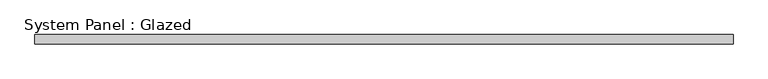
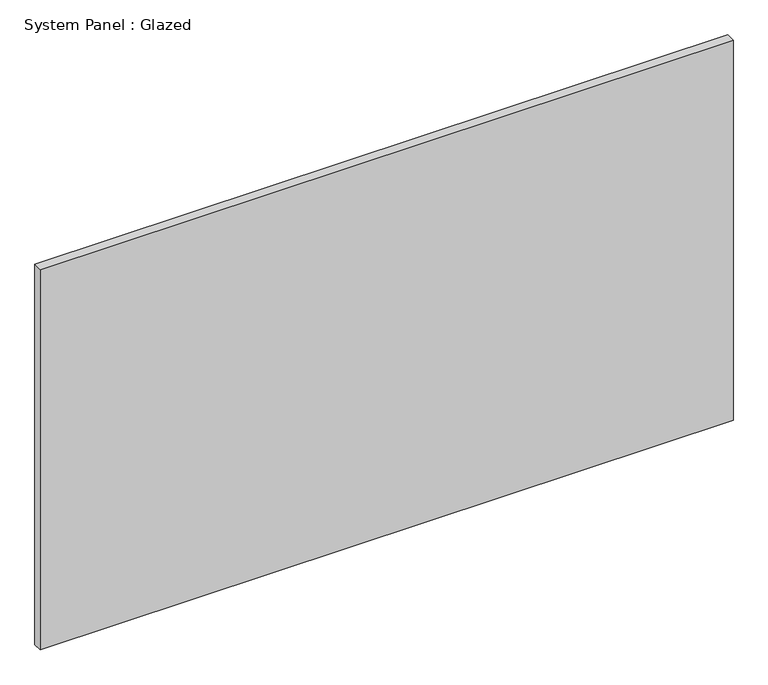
"""IFC4 building model written with IfcOpenShell, lengths in millimetres: plate geometry, System Panel : Glazed."""

from ifc_helpers import new_model, si_unit, origin, origin_with_axes, place, context, project, spatial, polyline, outline, extrude, source, transform, mapped, element, save


def system_panel_glazed_ac179f57(model_context):
    return source(origin(), model_context, "Body", "SweptSolid", [
        extrude(outline(polyline([(968.375, 19.05), (-968.375, 19.05), (-968.375, 44.45), (968.375, 44.45), (968.375, 19.05)])), origin_with_axes(), (0.0, 0.0, 1.0), 1123.95),
    ])


if __name__ == "__main__":
    model = new_model("IFC4")
    model_context = context("Model", 3, world=origin())
    ifc_project = project(units=[si_unit("LENGTHUNIT", "METRE", prefix="MILLI")], contexts=[model_context])
    site = spatial("IfcSite", under=ifc_project)
    building = spatial("IfcBuilding", under=site)
    placement = place(None, origin())
    system_panel_glazed_shape = system_panel_glazed_ac179f57(model_context)
    element("IfcPlate", 1, ObjectType="System Panel : Glazed", at=placement, inside=building, context=model_context, shape_type="MappedRepresentation", body=[
        mapped(system_panel_glazed_shape, transform((0.0, 0.0, 0.0), x_axis=(1.0, 0.0, 0.0), y_axis=(0.0, 1.0, 0.0), z_axis=(0.0, 0.0, 1.0))),
    ])
    save(model, "model.ifc")
